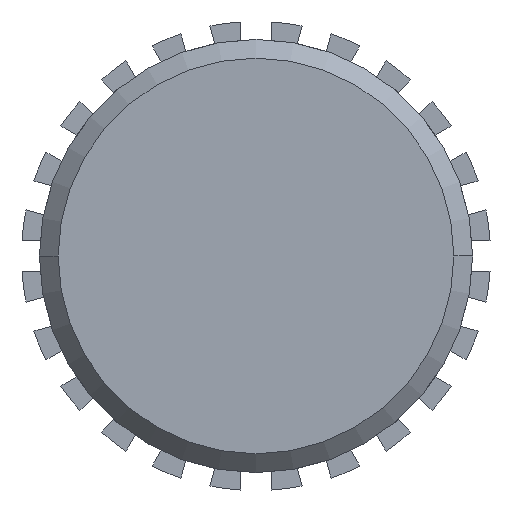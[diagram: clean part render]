
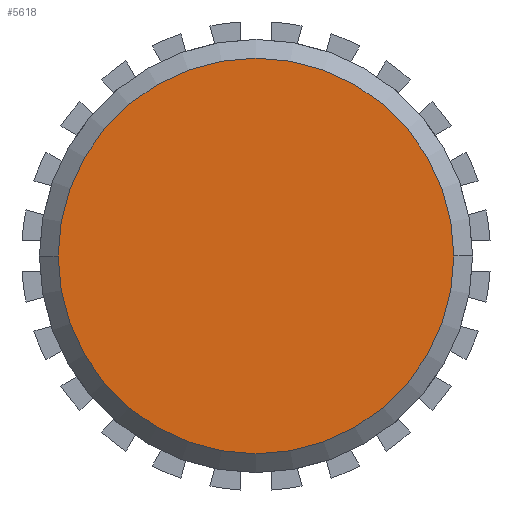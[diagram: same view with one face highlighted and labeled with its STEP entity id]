
A CAD part, front view. The second image highlights one B-rep face of the part: STEP entity #5618.
In plain terms, the highlighted planar face has unit normal (0, -1, 0).
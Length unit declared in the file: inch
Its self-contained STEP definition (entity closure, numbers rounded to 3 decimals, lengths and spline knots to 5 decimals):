
#106 = VERTEX_POINT ( 'NONE', #3465 ) ;
#110 = VERTEX_POINT ( 'NONE', #3476 ) ;
#115 = ORIENTED_EDGE ( 'NONE', *, *, #181, .F. ) ;
#117 = ORIENTED_EDGE ( 'NONE', *, *, #178, .F. ) ;
#178 = EDGE_CURVE ( 'NONE', #106, #110, #3755, .T. ) ;
#181 = EDGE_CURVE ( 'NONE', #110, #106, #3776, .T. ) ;
#518 = AXIS2_PLACEMENT_3D ( 'NONE', #5176, #5175, #5174 ) ;
#519 = AXIS2_PLACEMENT_3D ( 'NONE', #5171, #5170, #5169 ) ;
#1177 = FACE_OUTER_BOUND ( 'NONE', #5398, .T. ) ;
#1806 = PLANE ( 'NONE',  #2090 ) ;
#1815 = CARTESIAN_POINT ( 'NONE',  ( 0., 0.20169, 0. ) ) ;
#1816 = DIRECTION ( 'NONE',  ( 0., -1., 0. ) ) ;
#1817 = DIRECTION ( 'NONE',  ( 0., 0., -1. ) ) ;
#2090 = AXIS2_PLACEMENT_3D ( 'NONE', #1815, #1816, #1817 ) ;
#3465 = CARTESIAN_POINT ( 'NONE',  ( -4.86051, 0.20169, 0. ) ) ;
#3476 = CARTESIAN_POINT ( 'NONE',  ( -3.54451, 0.20169, 0. ) ) ;
#3755 = CIRCLE ( 'NONE', #518, 0.658 ) ;
#3776 = CIRCLE ( 'NONE', #519, 0.658 ) ;
#5169 = DIRECTION ( 'NONE',  ( -1., 0., 0. ) ) ;
#5170 = DIRECTION ( 'NONE',  ( 0., 1., 0. ) ) ;
#5171 = CARTESIAN_POINT ( 'NONE',  ( -4.20251, 0.20169, 0. ) ) ;
#5174 = DIRECTION ( 'NONE',  ( -1., 0., 0. ) ) ;
#5175 = DIRECTION ( 'NONE',  ( 0., 1., 0. ) ) ;
#5176 = CARTESIAN_POINT ( 'NONE',  ( -4.20251, 0.20169, 0. ) ) ;
#5398 = EDGE_LOOP ( 'NONE', ( #117, #115 ) ) ;
#5618 = ADVANCED_FACE ( 'NONE', ( #1177 ), #1806, .T. ) ;
